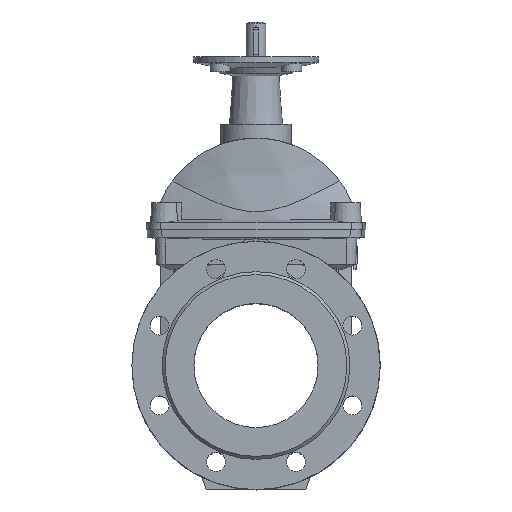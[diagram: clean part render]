
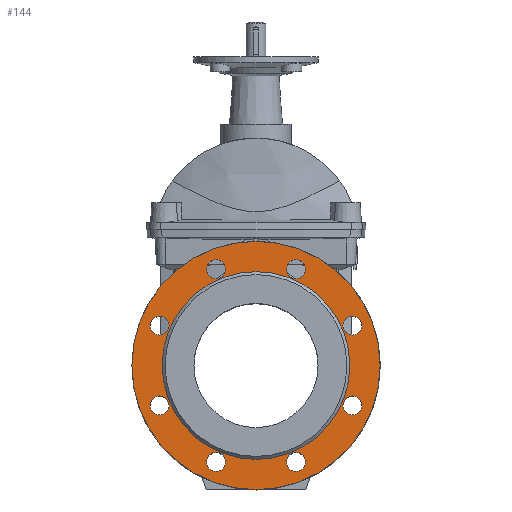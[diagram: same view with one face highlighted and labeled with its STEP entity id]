
A CAD part, top view. The second image highlights one B-rep face of the part: STEP entity #144.
In plain terms, the highlighted planar face has unit normal (0, 0, 1).
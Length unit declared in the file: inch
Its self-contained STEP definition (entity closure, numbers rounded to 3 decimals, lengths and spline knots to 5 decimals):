
#144 = ADVANCED_FACE ( 'NONE', ( #9554, #9558, #9555, #9557, #9556, #9559, #9560, #9561, #9562, #9563 ), #10068, .T. ) ;
#2751 = AXIS2_PLACEMENT_3D ( 'NONE', #10066, #10060, #10071 ) ;
#3250 = AXIS2_PLACEMENT_3D ( 'NONE', #6062, #6063, #6064 ) ;
#3261 = AXIS2_PLACEMENT_3D ( 'NONE', #6148, #6149, #6150 ) ;
#3262 = AXIS2_PLACEMENT_3D ( 'NONE', #6151, #6152, #6153 ) ;
#3263 = AXIS2_PLACEMENT_3D ( 'NONE', #6154, #6155, #6156 ) ;
#3264 = AXIS2_PLACEMENT_3D ( 'NONE', #6157, #6158, #6159 ) ;
#3265 = AXIS2_PLACEMENT_3D ( 'NONE', #6160, #6161, #6162 ) ;
#3266 = AXIS2_PLACEMENT_3D ( 'NONE', #6164, #6165, #6166 ) ;
#3267 = AXIS2_PLACEMENT_3D ( 'NONE', #6168, #6169, #6170 ) ;
#3268 = AXIS2_PLACEMENT_3D ( 'NONE', #6172, #6173, #6174 ) ;
#3269 = AXIS2_PLACEMENT_3D ( 'NONE', #6175, #6176, #6177 ) ;
#4185 = CIRCLE ( 'NONE', #3250, 4.92126 ) ;
#4203 = CIRCLE ( 'NONE', #3261, 0.37402 ) ;
#4207 = CIRCLE ( 'NONE', #3262, 0.37402 ) ;
#4208 = CIRCLE ( 'NONE', #3263, 0.37402 ) ;
#4209 = CIRCLE ( 'NONE', #3264, 0.37402 ) ;
#4210 = CIRCLE ( 'NONE', #3265, 0.37402 ) ;
#4211 = CIRCLE ( 'NONE', #3266, 0.37402 ) ;
#4212 = CIRCLE ( 'NONE', #3267, 0.37402 ) ;
#4213 = CIRCLE ( 'NONE', #3268, 0.37402 ) ;
#4214 = CIRCLE ( 'NONE', #3269, 3.72047 ) ;
#6062 = CARTESIAN_POINT ( 'NONE',  ( 0., 0., 3.8189 ) ) ;
#6063 = DIRECTION ( 'NONE',  ( 0., 0., -1. ) ) ;
#6064 = DIRECTION ( 'NONE',  ( -1., 0., 0. ) ) ;
#6148 = CARTESIAN_POINT ( 'NONE',  ( -1.58196, -3.81919, 3.8189 ) ) ;
#6149 = DIRECTION ( 'NONE',  ( 0., 0., 1. ) ) ;
#6150 = DIRECTION ( 'NONE',  ( 1., 0., 0. ) ) ;
#6151 = CARTESIAN_POINT ( 'NONE',  ( -3.81919, -1.58196, 3.8189 ) ) ;
#6152 = DIRECTION ( 'NONE',  ( 0., 0., 1. ) ) ;
#6153 = DIRECTION ( 'NONE',  ( 1., 0., 0. ) ) ;
#6154 = CARTESIAN_POINT ( 'NONE',  ( -3.81919, 1.58196, 3.8189 ) ) ;
#6155 = DIRECTION ( 'NONE',  ( 0., 0., 1. ) ) ;
#6156 = DIRECTION ( 'NONE',  ( 1., 0., 0. ) ) ;
#6157 = CARTESIAN_POINT ( 'NONE',  ( -1.58196, 3.81919, 3.8189 ) ) ;
#6158 = DIRECTION ( 'NONE',  ( 0., 0., 1. ) ) ;
#6159 = DIRECTION ( 'NONE',  ( 1., 0., 0. ) ) ;
#6160 = CARTESIAN_POINT ( 'NONE',  ( 1.58196, -3.81919, 3.8189 ) ) ;
#6161 = DIRECTION ( 'NONE',  ( 0., 0., -1. ) ) ;
#6162 = DIRECTION ( 'NONE',  ( -1., 0., 0. ) ) ;
#6164 = CARTESIAN_POINT ( 'NONE',  ( 3.81919, -1.58196, 3.8189 ) ) ;
#6165 = DIRECTION ( 'NONE',  ( 0., 0., -1. ) ) ;
#6166 = DIRECTION ( 'NONE',  ( -1., 0., 0. ) ) ;
#6168 = CARTESIAN_POINT ( 'NONE',  ( 3.81919, 1.58196, 3.8189 ) ) ;
#6169 = DIRECTION ( 'NONE',  ( 0., 0., -1. ) ) ;
#6170 = DIRECTION ( 'NONE',  ( -1., 0., 0. ) ) ;
#6172 = CARTESIAN_POINT ( 'NONE',  ( 1.58196, 3.81919, 3.8189 ) ) ;
#6173 = DIRECTION ( 'NONE',  ( 0., 0., -1. ) ) ;
#6174 = DIRECTION ( 'NONE',  ( -1., 0., 0. ) ) ;
#6175 = CARTESIAN_POINT ( 'NONE',  ( 0., 0., 3.8189 ) ) ;
#6176 = DIRECTION ( 'NONE',  ( 0., 0., -1. ) ) ;
#6177 = DIRECTION ( 'NONE',  ( -1., 0., 0. ) ) ;
#6669 = CARTESIAN_POINT ( 'NONE',  ( -4.92126, 0., 3.8189 ) ) ;
#6679 = CARTESIAN_POINT ( 'NONE',  ( -1.20794, -3.81919, 3.8189 ) ) ;
#6680 = CARTESIAN_POINT ( 'NONE',  ( -3.44517, -1.58196, 3.8189 ) ) ;
#6681 = CARTESIAN_POINT ( 'NONE',  ( -3.44517, 1.58196, 3.8189 ) ) ;
#6682 = CARTESIAN_POINT ( 'NONE',  ( -1.20794, 3.81919, 3.8189 ) ) ;
#6683 = CARTESIAN_POINT ( 'NONE',  ( 1.20794, -3.81919, 3.8189 ) ) ;
#6684 = CARTESIAN_POINT ( 'NONE',  ( 3.44517, -1.58196, 3.8189 ) ) ;
#6685 = CARTESIAN_POINT ( 'NONE',  ( 3.44517, 1.58196, 3.8189 ) ) ;
#6686 = CARTESIAN_POINT ( 'NONE',  ( 1.20794, 3.81919, 3.8189 ) ) ;
#6687 = CARTESIAN_POINT ( 'NONE',  ( -3.72047, 0., 3.8189 ) ) ;
#6838 = VERTEX_POINT ( 'NONE', #6669 ) ;
#6848 = VERTEX_POINT ( 'NONE', #6679 ) ;
#6849 = VERTEX_POINT ( 'NONE', #6680 ) ;
#6850 = VERTEX_POINT ( 'NONE', #6681 ) ;
#6851 = VERTEX_POINT ( 'NONE', #6682 ) ;
#6852 = VERTEX_POINT ( 'NONE', #6683 ) ;
#6853 = VERTEX_POINT ( 'NONE', #6684 ) ;
#6854 = VERTEX_POINT ( 'NONE', #6685 ) ;
#6855 = VERTEX_POINT ( 'NONE', #6686 ) ;
#6856 = VERTEX_POINT ( 'NONE', #6687 ) ;
#7911 = EDGE_LOOP ( 'NONE', ( #8315 ) ) ;
#7913 = EDGE_LOOP ( 'NONE', ( #8314 ) ) ;
#7925 = EDGE_LOOP ( 'NONE', ( #8316 ) ) ;
#7926 = EDGE_LOOP ( 'NONE', ( #8317 ) ) ;
#7927 = EDGE_LOOP ( 'NONE', ( #8318 ) ) ;
#7928 = EDGE_LOOP ( 'NONE', ( #8319 ) ) ;
#7929 = EDGE_LOOP ( 'NONE', ( #8320 ) ) ;
#7930 = EDGE_LOOP ( 'NONE', ( #8321 ) ) ;
#7931 = EDGE_LOOP ( 'NONE', ( #8322 ) ) ;
#7932 = EDGE_LOOP ( 'NONE', ( #8323 ) ) ;
#8314 = ORIENTED_EDGE ( 'NONE', *, *, #10539, .F. ) ;
#8315 = ORIENTED_EDGE ( 'NONE', *, *, #10540, .F. ) ;
#8316 = ORIENTED_EDGE ( 'NONE', *, *, #10541, .F. ) ;
#8317 = ORIENTED_EDGE ( 'NONE', *, *, #10542, .F. ) ;
#8318 = ORIENTED_EDGE ( 'NONE', *, *, #10543, .T. ) ;
#8319 = ORIENTED_EDGE ( 'NONE', *, *, #10544, .T. ) ;
#8320 = ORIENTED_EDGE ( 'NONE', *, *, #10545, .T. ) ;
#8321 = ORIENTED_EDGE ( 'NONE', *, *, #10546, .T. ) ;
#8322 = ORIENTED_EDGE ( 'NONE', *, *, #10521, .F. ) ;
#8323 = ORIENTED_EDGE ( 'NONE', *, *, #10547, .T. ) ;
#9554 = FACE_BOUND ( 'NONE', #7913, .T. ) ;
#9555 = FACE_BOUND ( 'NONE', #7925, .T. ) ;
#9556 = FACE_BOUND ( 'NONE', #7927, .T. ) ;
#9557 = FACE_BOUND ( 'NONE', #7926, .T. ) ;
#9558 = FACE_BOUND ( 'NONE', #7911, .T. ) ;
#9559 = FACE_BOUND ( 'NONE', #7928, .T. ) ;
#9560 = FACE_BOUND ( 'NONE', #7929, .T. ) ;
#9561 = FACE_BOUND ( 'NONE', #7930, .T. ) ;
#9562 = FACE_OUTER_BOUND ( 'NONE', #7931, .T. ) ;
#9563 = FACE_BOUND ( 'NONE', #7932, .T. ) ;
#10060 = DIRECTION ( 'NONE',  ( 0., 0., 1. ) ) ;
#10066 = CARTESIAN_POINT ( 'NONE',  ( 0., 3.72047, 3.8189 ) ) ;
#10068 = PLANE ( 'NONE',  #2751 ) ;
#10071 = DIRECTION ( 'NONE',  ( -1., 0., 0. ) ) ;
#10521 = EDGE_CURVE ( 'NONE', #6838, #6838, #4185, .T. ) ;
#10539 = EDGE_CURVE ( 'NONE', #6848, #6848, #4203, .T. ) ;
#10540 = EDGE_CURVE ( 'NONE', #6849, #6849, #4207, .T. ) ;
#10541 = EDGE_CURVE ( 'NONE', #6850, #6850, #4208, .T. ) ;
#10542 = EDGE_CURVE ( 'NONE', #6851, #6851, #4209, .T. ) ;
#10543 = EDGE_CURVE ( 'NONE', #6852, #6852, #4210, .T. ) ;
#10544 = EDGE_CURVE ( 'NONE', #6853, #6853, #4211, .T. ) ;
#10545 = EDGE_CURVE ( 'NONE', #6854, #6854, #4212, .T. ) ;
#10546 = EDGE_CURVE ( 'NONE', #6855, #6855, #4213, .T. ) ;
#10547 = EDGE_CURVE ( 'NONE', #6856, #6856, #4214, .T. ) ;
